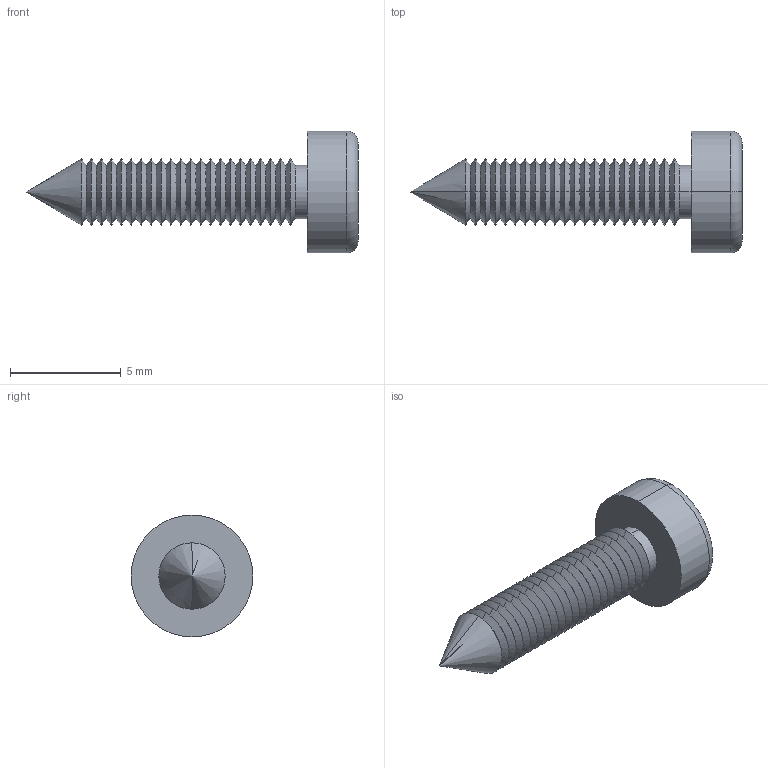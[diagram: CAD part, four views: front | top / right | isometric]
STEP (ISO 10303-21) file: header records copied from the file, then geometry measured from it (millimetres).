
FILE_DESCRIPTION (( 'STEP AP214' ), '1' );
FILE_NAME ('Cargol 2,9x13.STEP', '2016-09-12T16:20:51', ( 'aaa' ), ( '' ), 'SwSTEP 2.0', 'SolidWorks 2013', '' );
FILE_SCHEMA (( 'AUTOMOTIVE_DESIGN' ));
Length unit declared in the file: millimetre
Products named in the file (1): Cargol 2,9x13
Bounding box: 15 x 5.5 x 5.5 mm (x, y, z)
Volume: 116.9 mm3; surface area: 236.9 mm2
Topology: 1 solids, 1 shells, 109 faces, 228 edges, 121 vertices
Faces by surface type: cone 88, plane 15, cylinder 4, torus 2
Entity records: 2840 total; most frequent: DIRECTION 544, CARTESIAN_POINT 457, ORIENTED_EDGE 452, EDGE_CURVE 226, AXIS2_PLACEMENT_3D 208, LINE 128, VECTOR 128, VERTEX_POINT 121
